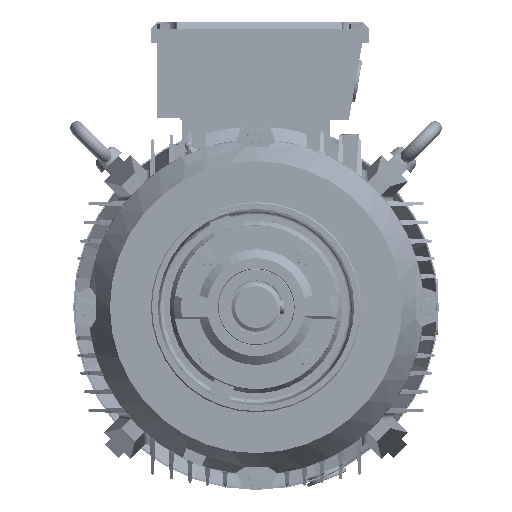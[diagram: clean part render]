
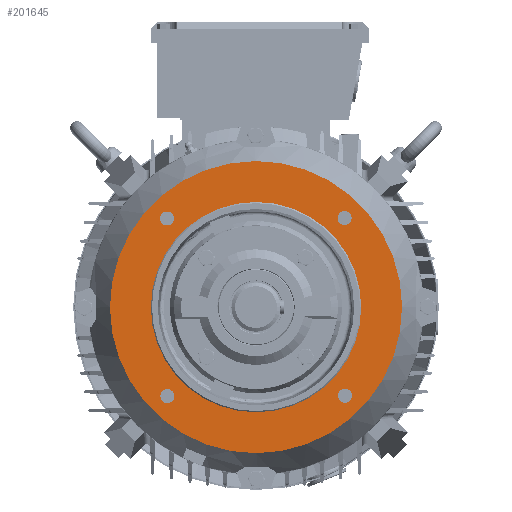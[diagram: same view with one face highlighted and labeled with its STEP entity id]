
A CAD part, left-side view. The second image highlights one B-rep face of the part: STEP entity #201645.
In plain terms, the highlighted planar face has unit normal (-1, 0, 0).
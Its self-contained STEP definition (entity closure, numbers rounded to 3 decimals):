
#186 = CIRCLE ( 'NONE', #219511, 125. ) ;
#3969 = EDGE_LOOP ( 'NONE', ( #170276, #205615 ) ) ;
#4640 = CIRCLE ( 'NONE', #190904, 90. ) ;
#6896 = CIRCLE ( 'NONE', #40752, 6. ) ;
#9379 = AXIS2_PLACEMENT_3D ( 'NONE', #148239, #174254, #186636 ) ;
#11272 = CARTESIAN_POINT ( 'NONE',  ( -152.343, 22.864, -2.35 ) ) ;
#14527 = ORIENTED_EDGE ( 'NONE', *, *, #62354, .F. ) ;
#20185 = DIRECTION ( 'NONE',  ( -1., 0., 0. ) ) ;
#20470 = AXIS2_PLACEMENT_3D ( 'NONE', #20483, #45569, #168702 ) ;
#20483 = CARTESIAN_POINT ( 'NONE',  ( -152.343, -52.967, 73.847 ) ) ;
#20599 = CARTESIAN_POINT ( 'NONE',  ( -152.343, 22.864, -2.35 ) ) ;
#20749 = CARTESIAN_POINT ( 'NONE',  ( -152.343, 98.694, -78.547 ) ) ;
#26523 = EDGE_CURVE ( 'NONE', #139261, #111902, #6896, .T. ) ;
#29969 = ORIENTED_EDGE ( 'NONE', *, *, #202512, .F. ) ;
#30939 = DIRECTION ( 'NONE',  ( 0., 1., -0.002 ) ) ;
#37339 = DIRECTION ( 'NONE',  ( 1., 0., 0. ) ) ;
#40752 = AXIS2_PLACEMENT_3D ( 'NONE', #149275, #129436, #210193 ) ;
#45569 = DIRECTION ( 'NONE',  ( -1., 0., 0. ) ) ;
#56257 = DIRECTION ( 'NONE',  ( 0., -1., 0.002 ) ) ;
#56853 = VERTEX_POINT ( 'NONE', #237641 ) ;
#57243 = CARTESIAN_POINT ( 'NONE',  ( -152.343, 23.08, 87.65 ) ) ;
#58540 = FACE_OUTER_BOUND ( 'NONE', #172687, .T. ) ;
#59047 = CARTESIAN_POINT ( 'NONE',  ( -152.343, -102.136, -2.049 ) ) ;
#60361 = DIRECTION ( 'NONE',  ( 0., -1., 0.002 ) ) ;
#62354 = EDGE_CURVE ( 'NONE', #72895, #204559, #71402, .T. ) ;
#62955 = DIRECTION ( 'NONE',  ( -1., 0., 0. ) ) ;
#65201 = DIRECTION ( 'NONE',  ( -1., 0., 0. ) ) ;
#67487 = CARTESIAN_POINT ( 'NONE',  ( -152.343, 93.06, 73.495 ) ) ;
#71402 = CIRCLE ( 'NONE', #20470, 6. ) ;
#72895 = VERTEX_POINT ( 'NONE', #89744 ) ;
#74815 = EDGE_LOOP ( 'NONE', ( #226288, #118010 ) ) ;
#78325 = AXIS2_PLACEMENT_3D ( 'NONE', #111786, #170059, #30939 ) ;
#83278 = AXIS2_PLACEMENT_3D ( 'NONE', #11272, #174114, #235009 ) ;
#84399 = CARTESIAN_POINT ( 'NONE',  ( -152.343, 99.06, 73.481 ) ) ;
#89744 = CARTESIAN_POINT ( 'NONE',  ( -152.343, -46.967, 73.833 ) ) ;
#90992 = EDGE_CURVE ( 'NONE', #239707, #203655, #4640, .T. ) ;
#95031 = CIRCLE ( 'NONE', #242940, 6. ) ;
#98284 = CIRCLE ( 'NONE', #9379, 6. ) ;
#101012 = DIRECTION ( 'NONE',  ( 0., -1., 0.002 ) ) ;
#101504 = AXIS2_PLACEMENT_3D ( 'NONE', #20749, #200875, #102883 ) ;
#102883 = DIRECTION ( 'NONE',  ( 0., 1., -0.002 ) ) ;
#102937 = EDGE_CURVE ( 'NONE', #117908, #130989, #129810, .T. ) ;
#106214 = AXIS2_PLACEMENT_3D ( 'NONE', #20599, #62955, #60361 ) ;
#111786 = CARTESIAN_POINT ( 'NONE',  ( -152.343, -52.967, 73.847 ) ) ;
#111902 = VERTEX_POINT ( 'NONE', #222300 ) ;
#114414 = ORIENTED_EDGE ( 'NONE', *, *, #249575, .F. ) ;
#117908 = VERTEX_POINT ( 'NONE', #158962 ) ;
#118010 = ORIENTED_EDGE ( 'NONE', *, *, #26523, .F. ) ;
#118158 = FACE_BOUND ( 'NONE', #3969, .T. ) ;
#118861 = CARTESIAN_POINT ( 'NONE',  ( -152.343, -47.333, -78.195 ) ) ;
#120270 = CARTESIAN_POINT ( 'NONE',  ( -152.343, -67.136, -2.133 ) ) ;
#120857 = CARTESIAN_POINT ( 'NONE',  ( -152.343, 22.864, -2.35 ) ) ;
#125526 = ORIENTED_EDGE ( 'NONE', *, *, #128496, .F. ) ;
#128496 = EDGE_CURVE ( 'NONE', #203655, #239707, #169721, .T. ) ;
#129188 = EDGE_CURVE ( 'NONE', #247632, #194781, #98284, .T. ) ;
#129436 = DIRECTION ( 'NONE',  ( -1., 0., 0. ) ) ;
#129810 = CIRCLE ( 'NONE', #83278, 125. ) ;
#130989 = VERTEX_POINT ( 'NONE', #59047 ) ;
#133152 = CARTESIAN_POINT ( 'NONE',  ( -152.343, 22.864, -2.35 ) ) ;
#136945 = ORIENTED_EDGE ( 'NONE', *, *, #176795, .T. ) ;
#137484 = CIRCLE ( 'NONE', #78325, 6. ) ;
#139261 = VERTEX_POINT ( 'NONE', #67487 ) ;
#148239 = CARTESIAN_POINT ( 'NONE',  ( -152.343, -53.333, -78.18 ) ) ;
#149275 = CARTESIAN_POINT ( 'NONE',  ( -152.343, 99.06, 73.481 ) ) ;
#150894 = DIRECTION ( 'NONE',  ( -1., 0., 0. ) ) ;
#155430 = CARTESIAN_POINT ( 'NONE',  ( -152.343, 92.694, -78.532 ) ) ;
#156510 = EDGE_LOOP ( 'NONE', ( #14527, #114414 ) ) ;
#157866 = FACE_BOUND ( 'NONE', #167459, .T. ) ;
#158962 = CARTESIAN_POINT ( 'NONE',  ( -152.343, 147.863, -2.651 ) ) ;
#160551 = AXIS2_PLACEMENT_3D ( 'NONE', #84399, #206172, #249799 ) ;
#167222 = ORIENTED_EDGE ( 'NONE', *, *, #102937, .T. ) ;
#167459 = EDGE_LOOP ( 'NONE', ( #186595, #29969 ) ) ;
#168114 = CARTESIAN_POINT ( 'NONE',  ( -152.343, -53.333, -78.18 ) ) ;
#168702 = DIRECTION ( 'NONE',  ( 0., 1., -0.002 ) ) ;
#169721 = CIRCLE ( 'NONE', #106214, 90. ) ;
#170059 = DIRECTION ( 'NONE',  ( -1., 0., 0. ) ) ;
#170276 = ORIENTED_EDGE ( 'NONE', *, *, #129188, .F. ) ;
#170733 = DIRECTION ( 'NONE',  ( 0., 1., -0.002 ) ) ;
#172687 = EDGE_LOOP ( 'NONE', ( #136945, #167222 ) ) ;
#174114 = DIRECTION ( 'NONE',  ( -1., 0., 0. ) ) ;
#174169 = CARTESIAN_POINT ( 'NONE',  ( -152.343, -59.333, -78.166 ) ) ;
#174254 = DIRECTION ( 'NONE',  ( -1., 0., 0. ) ) ;
#176795 = EDGE_CURVE ( 'NONE', #130989, #117908, #186, .T. ) ;
#184387 = DIRECTION ( 'NONE',  ( 0., 1., -0.002 ) ) ;
#186121 = EDGE_CURVE ( 'NONE', #56853, #216109, #243424, .T. ) ;
#186595 = ORIENTED_EDGE ( 'NONE', *, *, #186121, .F. ) ;
#186636 = DIRECTION ( 'NONE',  ( 0., 1., -0.002 ) ) ;
#189218 = CARTESIAN_POINT ( 'NONE',  ( -152.343, 112.863, -2.567 ) ) ;
#190904 = AXIS2_PLACEMENT_3D ( 'NONE', #120857, #20185, #101012 ) ;
#193012 = CARTESIAN_POINT ( 'NONE',  ( -152.343, -58.967, 73.862 ) ) ;
#194781 = VERTEX_POINT ( 'NONE', #174169 ) ;
#198912 = DIRECTION ( 'NONE',  ( 0., 0.002, 1. ) ) ;
#200875 = DIRECTION ( 'NONE',  ( -1., 0., 0. ) ) ;
#201645 = ADVANCED_FACE ( 'NONE', ( #58540, #118158, #157866, #218772, #238607, #220077 ), #237313, .F. ) ;
#202512 = EDGE_CURVE ( 'NONE', #216109, #56853, #236784, .T. ) ;
#203655 = VERTEX_POINT ( 'NONE', #189218 ) ;
#204559 = VERTEX_POINT ( 'NONE', #193012 ) ;
#205615 = ORIENTED_EDGE ( 'NONE', *, *, #209900, .F. ) ;
#206172 = DIRECTION ( 'NONE',  ( -1., 0., 0. ) ) ;
#209900 = EDGE_CURVE ( 'NONE', #194781, #247632, #95031, .T. ) ;
#210193 = DIRECTION ( 'NONE',  ( 0., 1., -0.002 ) ) ;
#211320 = EDGE_LOOP ( 'NONE', ( #253681, #125526 ) ) ;
#211436 = CIRCLE ( 'NONE', #160551, 6. ) ;
#213907 = DIRECTION ( 'NONE',  ( -1., 0., 0. ) ) ;
#216109 = VERTEX_POINT ( 'NONE', #155430 ) ;
#218772 = FACE_BOUND ( 'NONE', #74815, .T. ) ;
#219511 = AXIS2_PLACEMENT_3D ( 'NONE', #133152, #213907, #56257 ) ;
#220077 = FACE_BOUND ( 'NONE', #211320, .T. ) ;
#222300 = CARTESIAN_POINT ( 'NONE',  ( -152.343, 105.06, 73.466 ) ) ;
#226288 = ORIENTED_EDGE ( 'NONE', *, *, #242227, .F. ) ;
#226713 = CARTESIAN_POINT ( 'NONE',  ( -152.343, 98.694, -78.547 ) ) ;
#235009 = DIRECTION ( 'NONE',  ( 0., -1., 0.002 ) ) ;
#236784 = CIRCLE ( 'NONE', #101504, 6. ) ;
#237313 = PLANE ( 'NONE',  #241447 ) ;
#237641 = CARTESIAN_POINT ( 'NONE',  ( -152.343, 104.694, -78.561 ) ) ;
#238607 = FACE_BOUND ( 'NONE', #156510, .T. ) ;
#239707 = VERTEX_POINT ( 'NONE', #120270 ) ;
#241447 = AXIS2_PLACEMENT_3D ( 'NONE', #57243, #37339, #198912 ) ;
#242227 = EDGE_CURVE ( 'NONE', #111902, #139261, #211436, .T. ) ;
#242940 = AXIS2_PLACEMENT_3D ( 'NONE', #168114, #150894, #170733 ) ;
#243424 = CIRCLE ( 'NONE', #260463, 6. ) ;
#247632 = VERTEX_POINT ( 'NONE', #118861 ) ;
#249575 = EDGE_CURVE ( 'NONE', #204559, #72895, #137484, .T. ) ;
#249799 = DIRECTION ( 'NONE',  ( 0., 1., -0.002 ) ) ;
#253681 = ORIENTED_EDGE ( 'NONE', *, *, #90992, .F. ) ;
#260463 = AXIS2_PLACEMENT_3D ( 'NONE', #226713, #65201, #184387 ) ;
